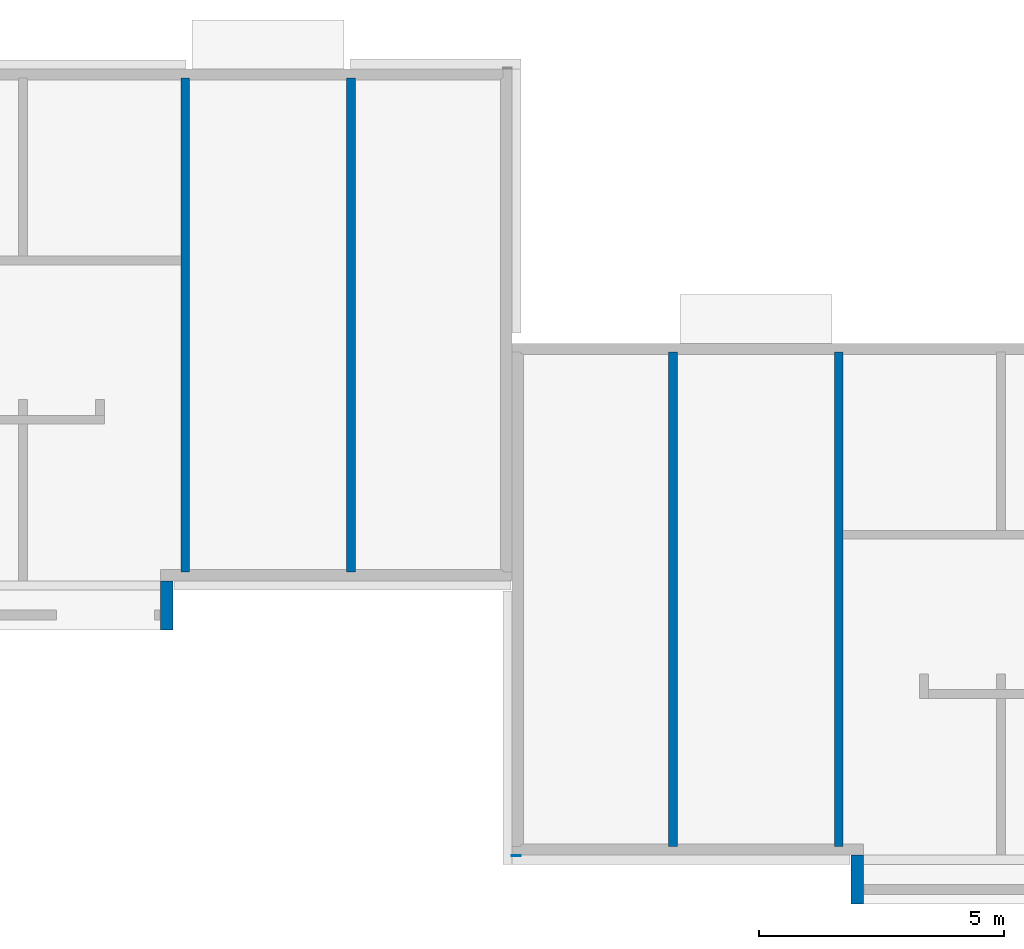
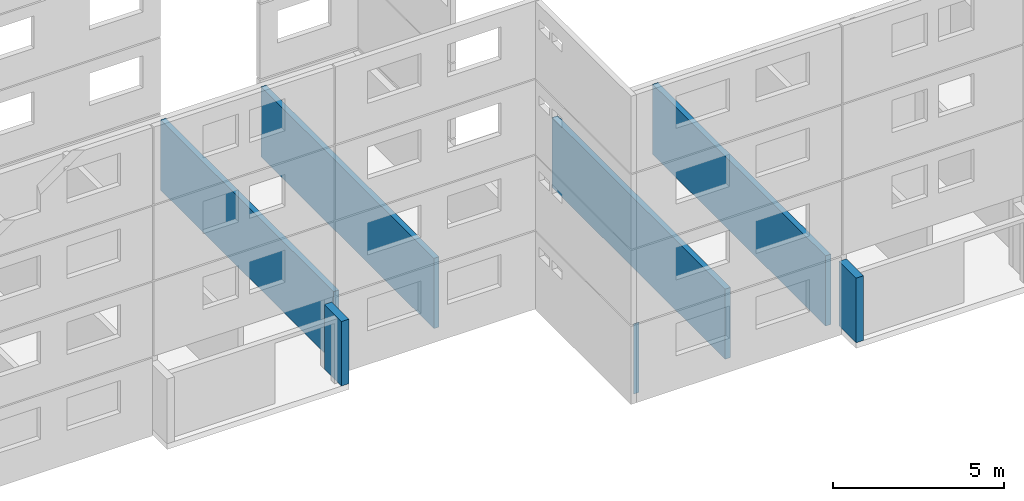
# One storey, part 4 of 15: 7 walls.
"""IFC2X3 building model written with IfcOpenShell, lengths in metres."""

from ifc_helpers import new_model, si_unit, frame, frame_2d, origin, origin_with_axes, place, context, project, spatial, rectangle, extrude, element, save


model = new_model("IFC2X3")

# Units and contexts
model_context = context("Model", 3, precision=1e-06, world=origin())
ifc_project = project(units=[si_unit("LENGTHUNIT", "METRE"), si_unit("PLANEANGLEUNIT", "RADIAN")], contexts=[model_context])

# Site, building, storey
site = spatial("IfcSite", under=ifc_project, CompositionType="ELEMENT")
building = spatial("IfcBuilding", under=site, CompositionType="ELEMENT")
storey = spatial("IfcBuildingStorey", under=building, Name="rdc", CompositionType="ELEMENT", Elevation=0.0)

# Walls
placement = place(None, origin())
wall_1_placement = place(placement, frame((33.11999999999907, 0.200077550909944, 0.0), z_axis=(0.0, 0.0, 1.0), x_axis=(0.0, 1.0, 0.0)))
element("IfcWall", 1, at=wall_1_placement, inside=storey, context=model_context, shape_type="SweptSolid", body=[
    extrude(rectangle(XDim=10.090000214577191, YDim=0.18, at=frame_2d((5.045000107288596, 0.09), x_axis=(1.0, 0.0)), kind="CURVE"), origin_with_axes(), (0.0, 0.0, 1.0), 2.5),
])
wall_2_placement = place(placement, frame((39.69999999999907, -5.579922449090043, 0.0), z_axis=(0.0, 0.0, 1.0), x_axis=(1.0, 0.0, 0.0)))
element("IfcWall", 2, at=wall_2_placement, inside=storey, context=model_context, shape_type="SweptSolid", body=[
    extrude(rectangle(XDim=0.18, YDim=0.020077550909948, at=frame_2d((0.09, 0.010038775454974), x_axis=(1.0, 0.0)), kind="CURVE"), frame((0.0, -0.020077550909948, 0.0), z_axis=(0.0, 0.0, 1.0), x_axis=(1.0, 0.0, 0.0)), (0.0, 0.0, 1.0), 2.5),
])
for number, where, z_axis, x_axis in (
    (3, (43.07999999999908, -5.399922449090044, 0.0), (0.0, 0.0, 1.0), (0.0, 1.0, 0.0)),
    (4, (36.49999999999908, 0.200077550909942, 0.0), (0.0, 0.0, 1.0), (0.0, 1.0, 0.0)),
):
    element("IfcWall", number, at=place(placement, frame(where, z_axis=z_axis, x_axis=x_axis)), inside=storey, context=model_context, shape_type="SweptSolid", body=[
        extrude(rectangle(XDim=10.090000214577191, YDim=0.18, at=frame_2d((5.045000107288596, 0.09), x_axis=(1.0, 0.0)), kind="CURVE"), origin_with_axes(), (0.0, 0.0, 1.0), 2.5),
    ])
wall_3_placement = place(placement, frame((46.62499999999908, -5.579922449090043, 0.0), z_axis=(0.0, 0.0, 1.0), x_axis=(0.0, -1.0, 0.0)))
element("IfcWall", 5, at=wall_3_placement, inside=storey, context=model_context, shape_type="SweptSolid", body=[
    extrude(rectangle(XDim=0.999999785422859, YDim=0.25, at=frame_2d((0.499999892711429, 0.125), x_axis=(1.0, 0.0)), kind="CURVE"), origin_with_axes(), (0.0, 0.0, 1.0), 2.300000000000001),
])
wall_4_placement = place(placement, frame((32.52499999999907, 0.020077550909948, 0.0), z_axis=(0.0, 0.0, 1.0), x_axis=(0.0, -1.0, 0.0)))
element("IfcWall", 6, at=wall_4_placement, inside=storey, context=model_context, shape_type="SweptSolid", body=[
    extrude(rectangle(XDim=0.999914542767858, YDim=0.249999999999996, at=frame_2d((0.499957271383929, 0.124999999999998), x_axis=(1.0, 0.0)), kind="CURVE"), origin_with_axes(), (0.0, 0.0, 1.0), 2.300000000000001),
])
wall_5_placement = place(placement, frame((46.459999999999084, -5.399922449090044, 0.0), z_axis=(0.0, 0.0, 1.0), x_axis=(0.0, 1.0, 0.0)))
element("IfcWall", 7, at=wall_5_placement, inside=storey, context=model_context, shape_type="SweptSolid", body=[
    extrude(rectangle(XDim=10.090000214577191, YDim=0.18, at=frame_2d((5.045000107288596, 0.09), x_axis=(1.0, 0.0)), kind="CURVE"), origin_with_axes(), (0.0, 0.0, 1.0), 2.5),
])

save(model, "model.ifc")
